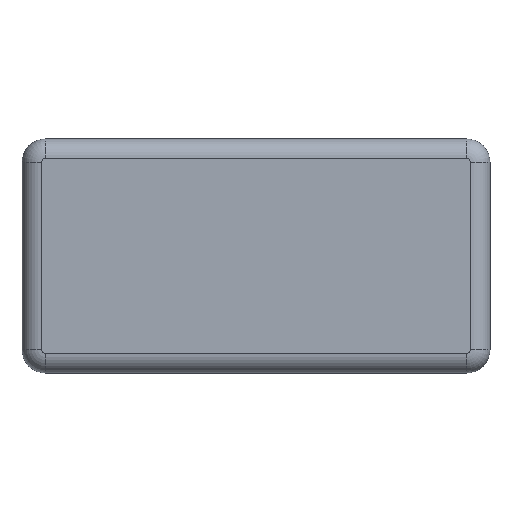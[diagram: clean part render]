
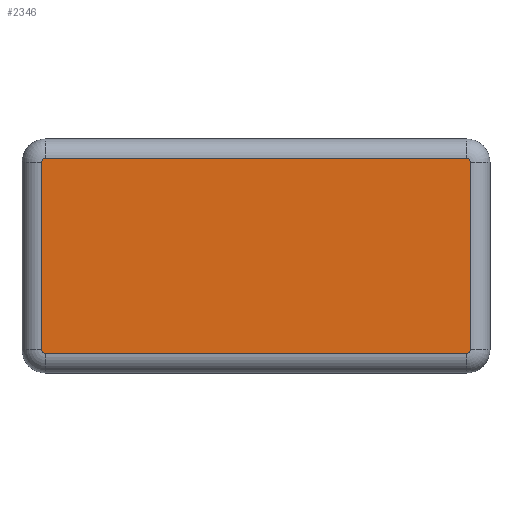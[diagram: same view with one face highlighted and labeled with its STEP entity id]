
A CAD part, top view. The second image highlights one B-rep face of the part: STEP entity #2346.
In plain terms, the highlighted planar face has unit normal (0, 0, 1).
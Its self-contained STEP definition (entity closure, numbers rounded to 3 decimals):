
#51 = DIRECTION ( 'NONE',  ( 0., -1., 0. ) ) ;
#55 = PLANE ( 'NONE',  #2505 ) ;
#174 = DIRECTION ( 'NONE',  ( 1., 0., 0. ) ) ;
#265 = CARTESIAN_POINT ( 'NONE',  ( -27., -12., 0. ) ) ;
#268 = CIRCLE ( 'NONE', #2333, 0.5 ) ;
#303 = DIRECTION ( 'NONE',  ( 0., -1., 0. ) ) ;
#319 = ORIENTED_EDGE ( 'NONE', *, *, #2354, .T. ) ;
#360 = CARTESIAN_POINT ( 'NONE',  ( -27.5, 12., 0. ) ) ;
#429 = VERTEX_POINT ( 'NONE', #1217 ) ;
#490 = ORIENTED_EDGE ( 'NONE', *, *, #1326, .F. ) ;
#567 = DIRECTION ( 'NONE',  ( 0., 0., -1. ) ) ;
#583 = DIRECTION ( 'NONE',  ( 0., -1., 0. ) ) ;
#606 = CARTESIAN_POINT ( 'NONE',  ( -27., -12.5, 0. ) ) ;
#638 = VECTOR ( 'NONE', #2224, 1000. ) ;
#701 = EDGE_LOOP ( 'NONE', ( #490, #2531, #2772, #319, #2630, #805, #2285, #982 ) ) ;
#805 = ORIENTED_EDGE ( 'NONE', *, *, #2089, .T. ) ;
#864 = LINE ( 'NONE', #1461, #638 ) ;
#915 = DIRECTION ( 'NONE',  ( 0., 0., -1. ) ) ;
#949 = VERTEX_POINT ( 'NONE', #1917 ) ;
#982 = ORIENTED_EDGE ( 'NONE', *, *, #2918, .T. ) ;
#994 = CARTESIAN_POINT ( 'NONE',  ( -27., -12.5, 0. ) ) ;
#1098 = LINE ( 'NONE', #1110, #2670 ) ;
#1110 = CARTESIAN_POINT ( 'NONE',  ( 27.5, 12., 0. ) ) ;
#1116 = CARTESIAN_POINT ( 'NONE',  ( -27.5, 12., 0. ) ) ;
#1185 = FACE_OUTER_BOUND ( 'NONE', #701, .T. ) ;
#1217 = CARTESIAN_POINT ( 'NONE',  ( 27.5, -12., 0. ) ) ;
#1223 = VERTEX_POINT ( 'NONE', #994 ) ;
#1300 = AXIS2_PLACEMENT_3D ( 'NONE', #2709, #1581, #1853 ) ;
#1326 = EDGE_CURVE ( 'NONE', #2605, #1625, #1443, .T. ) ;
#1353 = CARTESIAN_POINT ( 'NONE',  ( 27., 12.5, 0. ) ) ;
#1443 = CIRCLE ( 'NONE', #1300, 0.5 ) ;
#1447 = DIRECTION ( 'NONE',  ( 0., 0., 1. ) ) ;
#1461 = CARTESIAN_POINT ( 'NONE',  ( -27., 12.5, 0. ) ) ;
#1505 = DIRECTION ( 'NONE',  ( 0., -1., 0. ) ) ;
#1533 = CARTESIAN_POINT ( 'NONE',  ( -27., 12.5, 0. ) ) ;
#1536 = CARTESIAN_POINT ( 'NONE',  ( 27.5, 12., 0. ) ) ;
#1581 = DIRECTION ( 'NONE',  ( 0., 0., -1. ) ) ;
#1602 = VECTOR ( 'NONE', #583, 1000. ) ;
#1625 = VERTEX_POINT ( 'NONE', #1536 ) ;
#1630 = VERTEX_POINT ( 'NONE', #1116 ) ;
#1684 = CARTESIAN_POINT ( 'NONE',  ( 27., -12., 0. ) ) ;
#1700 = DIRECTION ( 'NONE',  ( 0., 0., -1. ) ) ;
#1853 = DIRECTION ( 'NONE',  ( 0., -1., 0. ) ) ;
#1884 = CIRCLE ( 'NONE', #2550, 0.5 ) ;
#1917 = CARTESIAN_POINT ( 'NONE',  ( -27.5, -12., 0. ) ) ;
#1957 = DIRECTION ( 'NONE',  ( 0., -1., 0. ) ) ;
#1988 = AXIS2_PLACEMENT_3D ( 'NONE', #1684, #567, #1505 ) ;
#1990 = EDGE_CURVE ( 'NONE', #1630, #2569, #1884, .T. ) ;
#2089 = EDGE_CURVE ( 'NONE', #1223, #2956, #2237, .T. ) ;
#2136 = EDGE_CURVE ( 'NONE', #2605, #2569, #864, .T. ) ;
#2215 = LINE ( 'NONE', #360, #1602 ) ;
#2224 = DIRECTION ( 'NONE',  ( -1., 0., 0. ) ) ;
#2237 = LINE ( 'NONE', #606, #2460 ) ;
#2285 = ORIENTED_EDGE ( 'NONE', *, *, #2444, .F. ) ;
#2333 = AXIS2_PLACEMENT_3D ( 'NONE', #265, #915, #51 ) ;
#2346 = ADVANCED_FACE ( 'NONE', ( #1185 ), #55, .T. ) ;
#2354 = EDGE_CURVE ( 'NONE', #1630, #949, #2215, .T. ) ;
#2431 = DIRECTION ( 'NONE',  ( 0., 1., 0. ) ) ;
#2444 = EDGE_CURVE ( 'NONE', #429, #2956, #2891, .T. ) ;
#2460 = VECTOR ( 'NONE', #174, 1000. ) ;
#2505 = AXIS2_PLACEMENT_3D ( 'NONE', #2809, #1447, #303 ) ;
#2531 = ORIENTED_EDGE ( 'NONE', *, *, #2136, .T. ) ;
#2550 = AXIS2_PLACEMENT_3D ( 'NONE', #2867, #1700, #1957 ) ;
#2569 = VERTEX_POINT ( 'NONE', #1533 ) ;
#2605 = VERTEX_POINT ( 'NONE', #1353 ) ;
#2619 = EDGE_CURVE ( 'NONE', #1223, #949, #268, .T. ) ;
#2630 = ORIENTED_EDGE ( 'NONE', *, *, #2619, .F. ) ;
#2670 = VECTOR ( 'NONE', #2431, 1000. ) ;
#2709 = CARTESIAN_POINT ( 'NONE',  ( 27., 12., 0. ) ) ;
#2772 = ORIENTED_EDGE ( 'NONE', *, *, #1990, .F. ) ;
#2809 = CARTESIAN_POINT ( 'NONE',  ( -27., 12., 0. ) ) ;
#2867 = CARTESIAN_POINT ( 'NONE',  ( -27., 12., 0. ) ) ;
#2891 = CIRCLE ( 'NONE', #1988, 0.5 ) ;
#2918 = EDGE_CURVE ( 'NONE', #429, #1625, #1098, .T. ) ;
#2938 = CARTESIAN_POINT ( 'NONE',  ( 27., -12.5, 0. ) ) ;
#2956 = VERTEX_POINT ( 'NONE', #2938 ) ;
